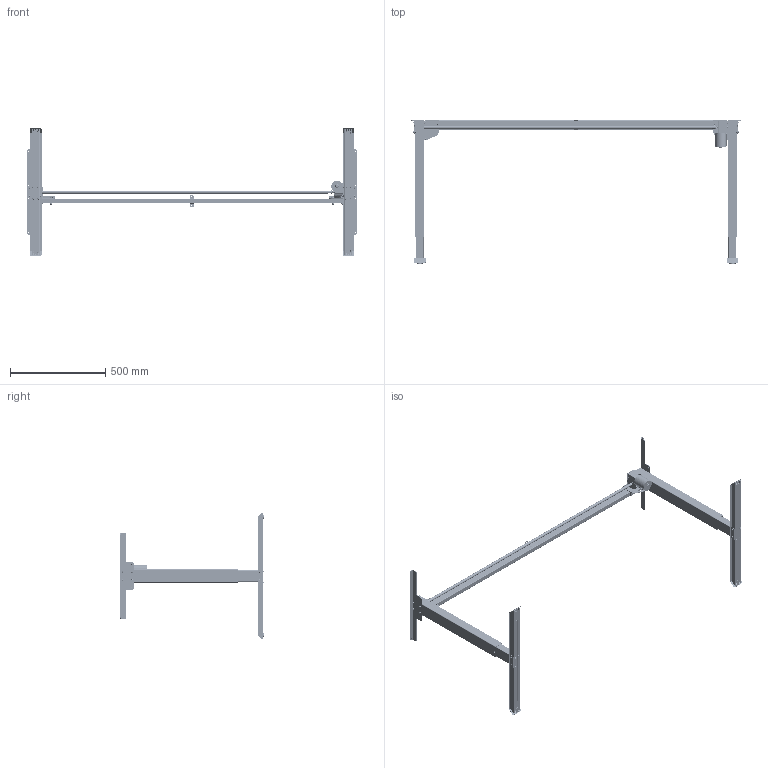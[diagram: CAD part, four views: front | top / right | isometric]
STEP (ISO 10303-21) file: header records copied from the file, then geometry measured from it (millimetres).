
FILE_DESCRIPTION (( 'STEP AP214' ), '1' );
FILE_NAME ('Tech-draw_501-20_XX172.STEP', '2024-01-12T09:08:23', ( '' ), ( '' ), 'SwSTEP 2.0', 'SolidWorks 2023', '' );
FILE_SCHEMA (( 'AUTOMOTIVE_DESIGN' ));
Length unit declared in the file: millimetre
Products named in the file (67): 359910_501-33 NY; 144260_172; 357760_Højere; 353110; 360360_70mm; 360340_kopi_gammel; 160340_501-20 XS172; 156500_501-33 NEW; 322650_501-33; 360300; 325000; 357610; 360490; 156460_Shell; 151900; 347910_172; 332570; 159280_501-20; 352360; 358020; 341220; 353100; Tech-draw_501-20_XX172; 159300_Shell; 340560; 360310; 360330; 357990_black; 353120; 156440_Shell; 353060; 156480; 356390; 353030; 341800; 358280; 356430_60x40; 341210; 356710_silver; 360320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
Assembly tree (160 placements, depth 7):
  Tech-draw_501-20_XX172
    160340_501-20 XS172
      347910_172
      144260_172
        347920_172
        340560
        341220
      340760  x3
      332570  x4
      341210
      160370_silver
        360300
        360330
        159290_Shell
          156440_Shell
            156460_Shell
              356390
              360340_kopi_gammel
            357580  x2
            357760_Højere
            358020
            357710
            352350
          357630  x2
          357640  x2
          341800
          156470_501-33 NEW
            357620
            360350_70mm
          352350
        159280_501-20
          359910_501-33 NY
          360380
          360490  x2
        360310
        358000_Simplify_1  x3
        340760  x2
        332570  x2
        349470  x2
        155730_silver
          357990_black
          356710_silver
          322810_zinc  x3
          353020
          353030
          151900
            353100
            322650_501-33  x2
            353050
            353060
            301890_Bend 7  x2
          353110  x2
          353120
          357720
        357610  x11
        358280  x4
        314690  x7
        325000  x8
      160360_silver
        159300_Shell
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Bounding box: 1735 x 756.2 x 674.9 mm (x, y, z)
Volume: 2241767.5 mm3; surface area: 2603766.6 mm2
Topology: 154 solids, 154 shells, 7982 faces, 20431 edges, 12836 vertices
Faces by surface type: plane 4151, cylinder 2415, bspline 589, cone 406, torus 220, sphere 201
Full cylindrical faces by diameter (mm): 1 x3, 1.2 x16, 1.6 x1, 1.7 x2, 1.9 x6, 2.2 x2, 2.5 x5, 3 x20, 3.3 x6, 4 x48, 4.2 x12, 4.5 x5, 4.98 x2, 5 x224, 5.5 x7, 6 x240, 6.1 x2, 6.4 x1, 7 x20, 7.4 x4, 7.5 x13, 8 x20, 8.2 x4, 8.5 x22, 9 x4, 10 x25, 11.9 x2, 12 x1, 13 x2, 14 x2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
Entity records: 170801 total; most frequent: CARTESIAN_POINT 60023, ORIENTED_EDGE 22714, DIRECTION 21918, EDGE_CURVE 11357, AXIS2_PLACEMENT_3D 7450, VERTEX_POINT 7431, VECTOR 7018, LINE 7018
